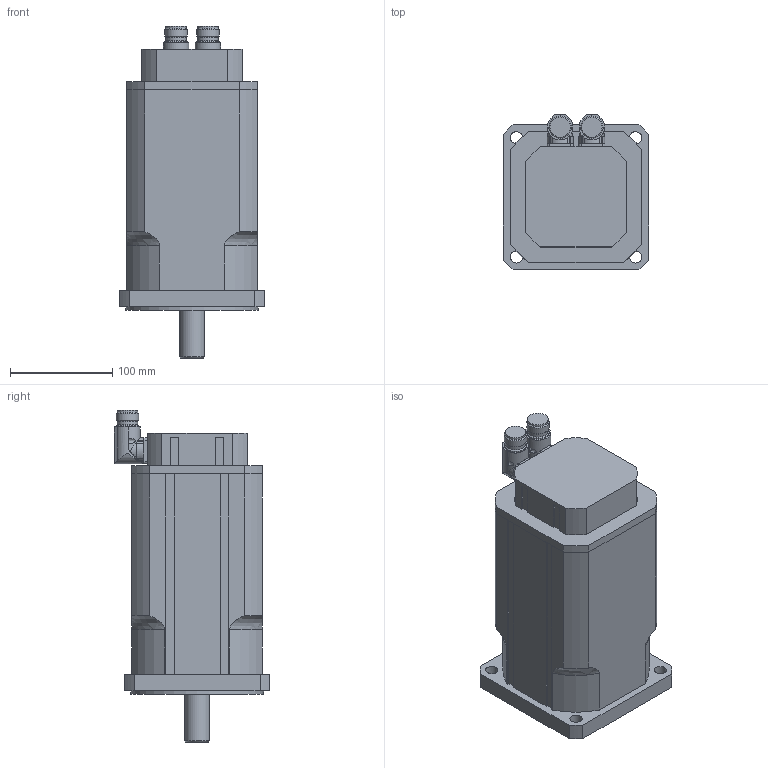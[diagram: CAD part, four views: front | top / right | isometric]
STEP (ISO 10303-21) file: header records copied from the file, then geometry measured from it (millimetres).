
FILE_DESCRIPTION(/* description */ ('Alibre Inc.'),/* implementation_level */ '2;1');
FILE_NAME(/* name */ 'export0',/* time_stamp */ '2011-08-10T15:03:18+02:00',/* author */ (''),/* organization */ (''),/* preprocessor_version */ 'ST-DEVELOPER v12',/* originating_system */ 'Alibre',/* authorisation */ '');
FILE_SCHEMA (('CONFIG_CONTROL_DESIGN'));
Length unit declared in the file: millimetre
Products named in the file (4): ID_1
Bounding box: 142 x 152 x 325 mm (x, y, z)
Volume: 3880040.3 mm3; surface area: 216000.9 mm2
Topology: 4 solids, 4 shells, 232 faces, 633 edges, 420 vertices
Faces by surface type: cylinder 111, plane 101, bspline 9, cone 7, torus 4
Full cylindrical faces by diameter (mm): 2.7 x8, 20 x8, 22 x4, 24 x1, 52 x1, 130 x1
Entity records: 6139 total; most frequent: CARTESIAN_POINT 1695, ORIENTED_EDGE 828, DIRECTION 783, EDGE_CURVE 414, AXIS2_PLACEMENT_3D 316, VERTEX_POINT 290, VECTOR 231, LINE 231
